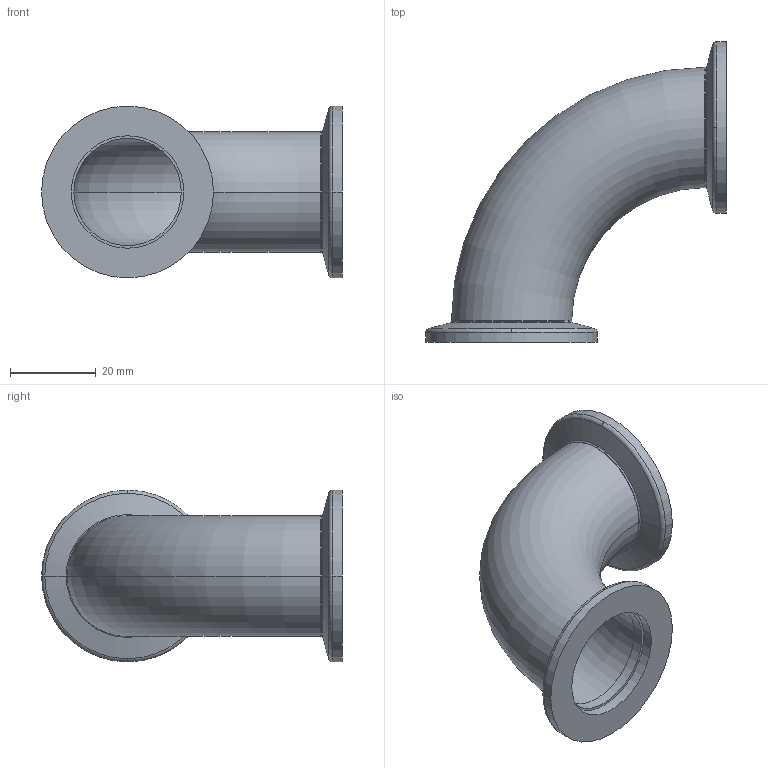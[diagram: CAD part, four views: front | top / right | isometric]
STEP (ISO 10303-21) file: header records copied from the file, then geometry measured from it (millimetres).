
FILE_DESCRIPTION((''),'2;1');
FILE_NAME('N:\Transfer\Berger Martin\Leybold\C13\88462.stp','2005-02-08T17:00:23',('PESO'),(''),'Autodesk Inventor 9','Autodesk Inventor 9','');
FILE_SCHEMA(('AUTOMOTIVE_DESIGN { 1 0 10303 214 1 1 1 1 }'));
Length unit declared in the file: millimetre
Products named in the file (1): 88462
Bounding box: 70 x 70 x 40 mm (x, y, z)
Volume: 14624.7 mm3; surface area: 16182 mm2
Topology: 1 solids, 1 shells, 36 faces, 90 edges, 58 vertices
Faces by surface type: cylinder 16, torus 8, cone 4, bspline 4, plane 4
Entity records: 1303 total; most frequent: CARTESIAN_POINT 361, DIRECTION 226, ORIENTED_EDGE 180, AXIS2_PLACEMENT_3D 103, EDGE_CURVE 90, CIRCLE 70, VERTEX_POINT 58, EDGE_LOOP 40
